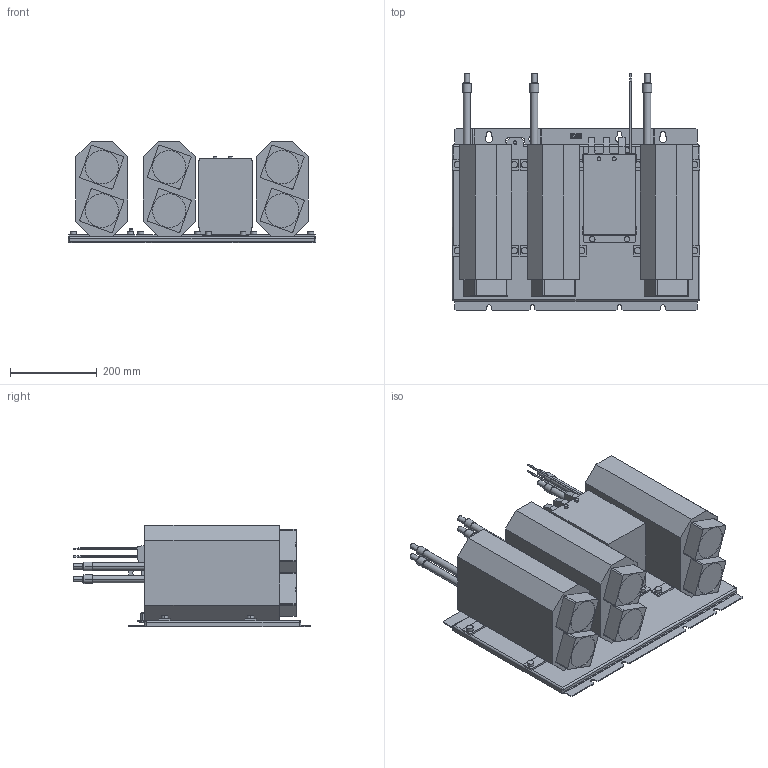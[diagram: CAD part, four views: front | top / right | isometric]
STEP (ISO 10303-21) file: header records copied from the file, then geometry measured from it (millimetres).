
FILE_DESCRIPTION (( 'STEP AP214' ), '1' );
FILE_NAME ('0PZ1+ 0SZ1I05-1001.STEP', '2023-09-26T08:56:21', ( '' ), ( '' ), 'SwSTEP 2.0', 'SolidWorks 2022', '' );
FILE_SCHEMA (( 'AUTOMOTIVE_DESIGN' ));
Length unit declared in the file: millimetre
Products named in the file (1): 0PZ1+ 0SZ1I05-1001
Bounding box: 570 x 547 x 233.5 mm (x, y, z)
Volume: 30738572.3 mm3; surface area: 1449947 mm2
Topology: 1 solids, 7 shells, 625 faces, 1598 edges, 1049 vertices
Faces by surface type: plane 366, cylinder 223, bspline 18, cone 18
Entity records: 19996 total; most frequent: CARTESIAN_POINT 4355, ORIENTED_EDGE 3190, DIRECTION 3169, EDGE_CURVE 1595, AXIS2_PLACEMENT_3D 1065, VERTEX_POINT 1049, LINE 1039, VECTOR 1039
